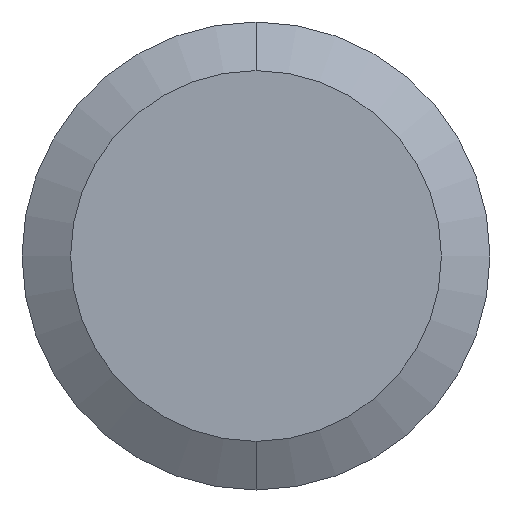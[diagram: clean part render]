
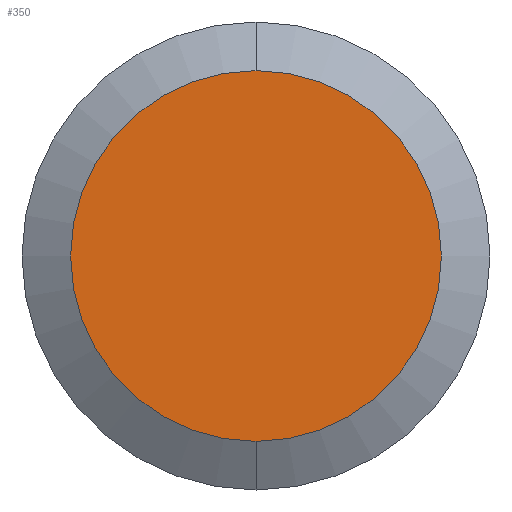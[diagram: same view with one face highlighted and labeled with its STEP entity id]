
A CAD part, front view. The second image highlights one B-rep face of the part: STEP entity #350.
In plain terms, the highlighted planar face has unit normal (0, -1, 0).
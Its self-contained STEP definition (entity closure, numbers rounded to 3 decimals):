
#7 = CIRCLE ( 'NONE', #258, 1.98 ) ;
#58 = CARTESIAN_POINT ( 'NONE',  ( 5615.127, -3043.691, 0. ) ) ;
#73 = CARTESIAN_POINT ( 'NONE',  ( 5615.127, -3043.691, 0. ) ) ;
#83 = CIRCLE ( 'NONE', #575, 1.98 ) ;
#187 = EDGE_LOOP ( 'NONE', ( #520, #425 ) ) ;
#242 = DIRECTION ( 'NONE',  ( 0., 0., 1. ) ) ;
#258 = AXIS2_PLACEMENT_3D ( 'NONE', #73, #759, #242 ) ;
#270 = CARTESIAN_POINT ( 'NONE',  ( 5613.146, -3043.691, 0. ) ) ;
#286 = FACE_OUTER_BOUND ( 'NONE', #187, .T. ) ;
#350 = ADVANCED_FACE ( 'NONE', ( #286 ), #613, .T. ) ;
#352 = DIRECTION ( 'NONE',  ( 0., 0., -1. ) ) ;
#425 = ORIENTED_EDGE ( 'NONE', *, *, #694, .F. ) ;
#493 = VERTEX_POINT ( 'NONE', #763 ) ;
#520 = ORIENTED_EDGE ( 'NONE', *, *, #1080, .F. ) ;
#575 = AXIS2_PLACEMENT_3D ( 'NONE', #58, #897, #737 ) ;
#613 = PLANE ( 'NONE',  #960 ) ;
#694 = EDGE_CURVE ( 'NONE', #493, #735, #7, .T. ) ;
#735 = VERTEX_POINT ( 'NONE', #824 ) ;
#737 = DIRECTION ( 'NONE',  ( 0., 0., 1. ) ) ;
#759 = DIRECTION ( 'NONE',  ( 0., 1., 0. ) ) ;
#763 = CARTESIAN_POINT ( 'NONE',  ( 5615.127, -3043.691, -1.98 ) ) ;
#824 = CARTESIAN_POINT ( 'NONE',  ( 5615.127, -3043.691, 1.98 ) ) ;
#897 = DIRECTION ( 'NONE',  ( 0., 1., 0. ) ) ;
#960 = AXIS2_PLACEMENT_3D ( 'NONE', #270, #1034, #352 ) ;
#1034 = DIRECTION ( 'NONE',  ( 0., -1., 0. ) ) ;
#1080 = EDGE_CURVE ( 'NONE', #735, #493, #83, .T. ) ;
